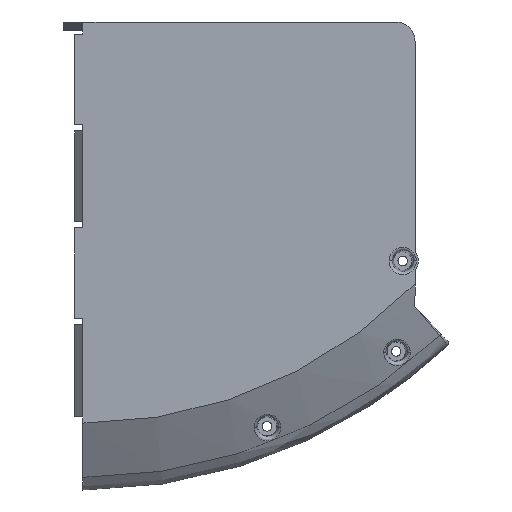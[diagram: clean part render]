
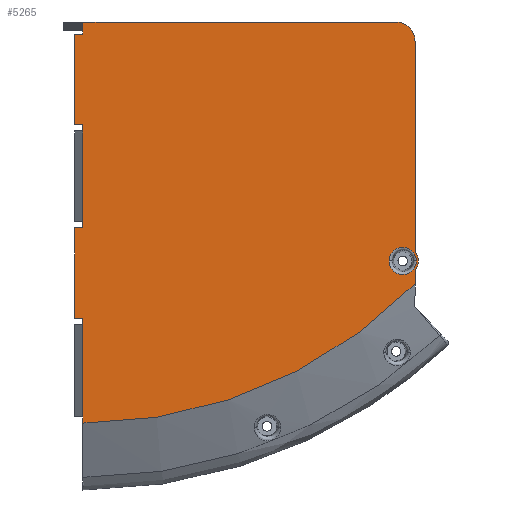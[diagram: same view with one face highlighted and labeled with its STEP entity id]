
A CAD part, front view. The second image highlights one B-rep face of the part: STEP entity #5265.
In plain terms, the highlighted planar face has unit normal (0, -1, 0).
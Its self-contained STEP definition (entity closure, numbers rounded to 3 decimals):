
#2=CARTESIAN_POINT('',(99.,-29.,-94.));
#3=DIRECTION('',(0.,1.,0.));
#4=DIRECTION('',(-1.,0.,0.));
#5=AXIS2_PLACEMENT_3D('',#2,#3,#4);
#7=CARTESIAN_POINT('',(99.,-29.,-94.));
#8=DIRECTION('',(0.,1.,0.));
#9=DIRECTION('',(1.,0.,0.));
#10=AXIS2_PLACEMENT_3D('',#7,#8,#9);
#12=DIRECTION('',(0.,0.,1.));
#13=VECTOR('',#12,2.);
#14=CARTESIAN_POINT('',(0.,-29.,-53.75));
#15=LINE('',#14,#13);
#16=DIRECTION('',(1.,0.,0.));
#17=VECTOR('',#16,2.5);
#18=CARTESIAN_POINT('',(-2.5,-29.,-51.75));
#19=LINE('',#18,#17);
#20=DIRECTION('',(1.,0.,0.));
#21=VECTOR('',#20,2.5);
#22=CARTESIAN_POINT('',(-2.5,-29.,-23.75));
#23=LINE('',#22,#21);
#24=DIRECTION('',(0.,0.,-1.));
#25=VECTOR('',#24,1.);
#26=CARTESIAN_POINT('',(0.,-29.,-22.75));
#27=LINE('',#26,#25);
#28=DIRECTION('',(0.,0.,-1.));
#29=VECTOR('',#28,2.75);
#30=CARTESIAN_POINT('',(0.,-29.,-20.));
#31=LINE('',#30,#29);
#32=DIRECTION('',(1.,0.,0.));
#33=VECTOR('',#32,96.837);
#34=CARTESIAN_POINT('',(0.,-29.,-20.));
#35=LINE('',#34,#33);
#36=CARTESIAN_POINT('',(96.837,-29.,-26.));
#37=DIRECTION('',(0.,-1.,0.));
#38=DIRECTION('',(1.,0.,0.));
#39=AXIS2_PLACEMENT_3D('',#36,#37,#38);
#41=DIRECTION('',(0.,0.,-1.));
#42=VECTOR('',#41,65.055);
#43=CARTESIAN_POINT('',(102.837,-29.,-26.));
#44=LINE('',#43,#42);
#45=CARTESIAN_POINT('',(99.,-29.,-94.));
#46=DIRECTION('',(0.,-1.,0.));
#47=DIRECTION('',(0.793,0.,-0.609));
#48=AXIS2_PLACEMENT_3D('',#45,#46,#47);
#50=DIRECTION('',(0.,0.,-1.));
#51=VECTOR('',#50,4.162);
#52=CARTESIAN_POINT('',(102.837,-29.,-96.945));
#53=LINE('',#52,#51);
#54=CARTESIAN_POINT('',(0.,-29.,0.));
#55=DIRECTION('',(0.,-1.,0.));
#56=DIRECTION('',(0.,0.,-1.));
#57=AXIS2_PLACEMENT_3D('',#54,#55,#56);
#59=DIRECTION('',(0.,0.,-1.));
#60=VECTOR('',#59,28.554);
#61=CARTESIAN_POINT('',(0.,-29.,-113.75));
#62=LINE('',#61,#60);
#63=DIRECTION('',(0.,0.,1.));
#64=VECTOR('',#63,2.);
#65=CARTESIAN_POINT('',(0.,-29.,-113.75));
#66=LINE('',#65,#64);
#67=DIRECTION('',(1.,0.,0.));
#68=VECTOR('',#67,2.5);
#69=CARTESIAN_POINT('',(-2.5,-29.,-111.75));
#70=LINE('',#69,#68);
#71=DIRECTION('',(1.,0.,0.));
#72=VECTOR('',#71,2.5);
#73=CARTESIAN_POINT('',(-2.5,-29.,-83.75));
#74=LINE('',#73,#72);
#75=DIRECTION('',(0.,0.,1.));
#76=VECTOR('',#75,2.);
#77=CARTESIAN_POINT('',(0.,-29.,-83.75));
#78=LINE('',#77,#76);
#79=DIRECTION('',(0.,0.,-1.));
#80=VECTOR('',#79,28.);
#81=CARTESIAN_POINT('',(0.,-29.,-53.75));
#82=LINE('',#81,#80);
#519=CARTESIAN_POINT('',(102.837,-29.,-96.945));
#521=CARTESIAN_POINT('',(102.837,-29.,-91.055));
#3004=DIRECTION('',(0.,0.,-1.));
#3005=VECTOR('',#3004,28.);
#3006=CARTESIAN_POINT('',(-2.5,-29.,-83.75));
#3007=LINE('',#3006,#3005);
#3040=DIRECTION('',(0.,0.,-1.));
#3041=VECTOR('',#3040,1.911);
#3042=CARTESIAN_POINT('',(0.,-29.,-142.304));
#3043=LINE('',#3042,#3041);
#3148=DIRECTION('',(0.,0.,-1.));
#3149=VECTOR('',#3148,28.);
#3150=CARTESIAN_POINT('',(-2.5,-29.,-23.75));
#3151=LINE('',#3150,#3149);
#4217=CARTESIAN_POINT('',(94.779,-29.,-94.));
#4218=CARTESIAN_POINT('',(103.221,-29.,-94.));
#4219=VERTEX_POINT('',#4217);
#4220=VERTEX_POINT('',#4218);
#4279=VERTEX_POINT('',#519);
#4284=CARTESIAN_POINT('',(102.837,-29.,-101.107));
#4285=VERTEX_POINT('',#4284);
#4286=CARTESIAN_POINT('',(102.837,-29.,-26.));
#4287=CARTESIAN_POINT('',(96.837,-29.,-20.));
#4288=VERTEX_POINT('',#4286);
#4289=VERTEX_POINT('',#4287);
#4316=VERTEX_POINT('',#521);
#5116=CARTESIAN_POINT('',(0.,-29.,-144.215));
#5118=VERTEX_POINT('',#5116);
#5148=CARTESIAN_POINT('',(0.,-29.,-20.));
#5149=VERTEX_POINT('',#5148);
#5150=CARTESIAN_POINT('',(0.,-29.,-53.75));
#5151=CARTESIAN_POINT('',(0.,-29.,-51.75));
#5152=VERTEX_POINT('',#5150);
#5153=VERTEX_POINT('',#5151);
#5154=CARTESIAN_POINT('',(-2.5,-29.,-51.75));
#5155=VERTEX_POINT('',#5154);
#5156=CARTESIAN_POINT('',(0.,-29.,-83.75));
#5157=CARTESIAN_POINT('',(0.,-29.,-81.75));
#5158=VERTEX_POINT('',#5156);
#5159=VERTEX_POINT('',#5157);
#5160=CARTESIAN_POINT('',(-2.5,-29.,-83.75));
#5161=VERTEX_POINT('',#5160);
#5162=CARTESIAN_POINT('',(0.,-29.,-113.75));
#5163=CARTESIAN_POINT('',(0.,-29.,-111.75));
#5164=VERTEX_POINT('',#5162);
#5165=VERTEX_POINT('',#5163);
#5166=CARTESIAN_POINT('',(-2.5,-29.,-111.75));
#5167=VERTEX_POINT('',#5166);
#5168=CARTESIAN_POINT('',(0.,-29.,-22.75));
#5169=CARTESIAN_POINT('',(0.,-29.,-23.75));
#5170=VERTEX_POINT('',#5168);
#5171=VERTEX_POINT('',#5169);
#5172=CARTESIAN_POINT('',(-2.5,-29.,-23.75));
#5173=VERTEX_POINT('',#5172);
#5202=CARTESIAN_POINT('',(0.,-29.,-142.304));
#5203=VERTEX_POINT('',#5202);
#5212=CARTESIAN_POINT('',(0.,-29.,0.));
#5213=DIRECTION('',(0.,-1.,0.));
#5214=DIRECTION('',(0.,0.,-1.));
#5215=AXIS2_PLACEMENT_3D('',#5212,#5213,#5214);
#5216=PLANE('',#5215);
#5218=ORIENTED_EDGE('',*,*,#5217,.T.);
#5220=ORIENTED_EDGE('',*,*,#5219,.F.);
#5222=ORIENTED_EDGE('',*,*,#5221,.F.);
#5224=ORIENTED_EDGE('',*,*,#5223,.T.);
#5226=ORIENTED_EDGE('',*,*,#5225,.F.);
#5228=ORIENTED_EDGE('',*,*,#5227,.F.);
#5230=ORIENTED_EDGE('',*,*,#5229,.T.);
#5232=ORIENTED_EDGE('',*,*,#5231,.F.);
#5234=ORIENTED_EDGE('',*,*,#5233,.T.);
#5236=ORIENTED_EDGE('',*,*,#5235,.F.);
#5238=ORIENTED_EDGE('',*,*,#5237,.T.);
#5240=ORIENTED_EDGE('',*,*,#5239,.F.);
#5242=ORIENTED_EDGE('',*,*,#5241,.F.);
#5244=ORIENTED_EDGE('',*,*,#5243,.F.);
#5246=ORIENTED_EDGE('',*,*,#5245,.T.);
#5248=ORIENTED_EDGE('',*,*,#5247,.F.);
#5250=ORIENTED_EDGE('',*,*,#5249,.F.);
#5252=ORIENTED_EDGE('',*,*,#5251,.T.);
#5254=ORIENTED_EDGE('',*,*,#5253,.T.);
#5256=ORIENTED_EDGE('',*,*,#5255,.F.);
#5257=EDGE_LOOP('',(#5218,#5220,#5222,#5224,#5226,#5228,#5230,#5232,#5234,#5236,
#5238,#5240,#5242,#5244,#5246,#5248,#5250,#5252,#5254,#5256));
#5258=FACE_OUTER_BOUND('',#5257,.F.);
#5260=ORIENTED_EDGE('',*,*,#5259,.F.);
#5262=ORIENTED_EDGE('',*,*,#5261,.F.);
#5263=EDGE_LOOP('',(#5260,#5262));
#5264=FACE_BOUND('',#5263,.F.);
#5265=ADVANCED_FACE('',(#5258,#5264),#5216,.T.);
#6=CIRCLE('',#5,4.221);
#11=CIRCLE('',#10,4.221);
#40=CIRCLE('',#39,6.);
#49=CIRCLE('',#48,4.837);
#58=CIRCLE('',#57,144.215);
#5217=EDGE_CURVE('',#5152,#5153,#15,.T.);
#5219=EDGE_CURVE('',#5155,#5153,#19,.T.);
#5221=EDGE_CURVE('',#5173,#5155,#3151,.T.);
#5223=EDGE_CURVE('',#5173,#5171,#23,.T.);
#5225=EDGE_CURVE('',#5170,#5171,#27,.T.);
#5227=EDGE_CURVE('',#5149,#5170,#31,.T.);
#5229=EDGE_CURVE('',#5149,#4289,#35,.T.);
#5231=EDGE_CURVE('',#4288,#4289,#40,.T.);
#5233=EDGE_CURVE('',#4288,#4316,#44,.T.);
#5235=EDGE_CURVE('',#4279,#4316,#49,.T.);
#5237=EDGE_CURVE('',#4279,#4285,#53,.T.);
#5239=EDGE_CURVE('',#5118,#4285,#58,.T.);
#5241=EDGE_CURVE('',#5203,#5118,#3043,.T.);
#5243=EDGE_CURVE('',#5164,#5203,#62,.T.);
#5245=EDGE_CURVE('',#5164,#5165,#66,.T.);
#5247=EDGE_CURVE('',#5167,#5165,#70,.T.);
#5249=EDGE_CURVE('',#5161,#5167,#3007,.T.);
#5251=EDGE_CURVE('',#5161,#5158,#74,.T.);
#5253=EDGE_CURVE('',#5158,#5159,#78,.T.);
#5255=EDGE_CURVE('',#5152,#5159,#82,.T.);
#5259=EDGE_CURVE('',#4219,#4220,#6,.T.);
#5261=EDGE_CURVE('',#4220,#4219,#11,.T.);
